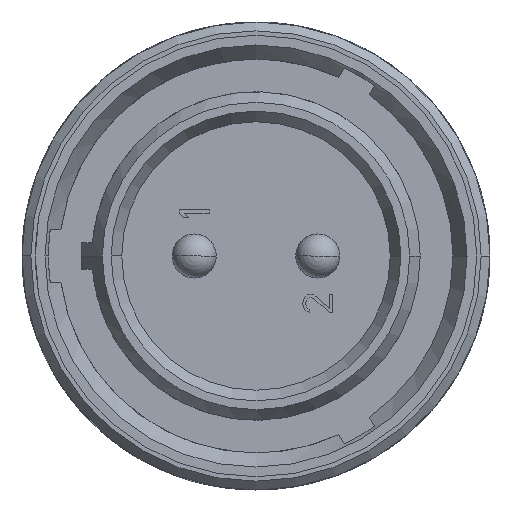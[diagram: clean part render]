
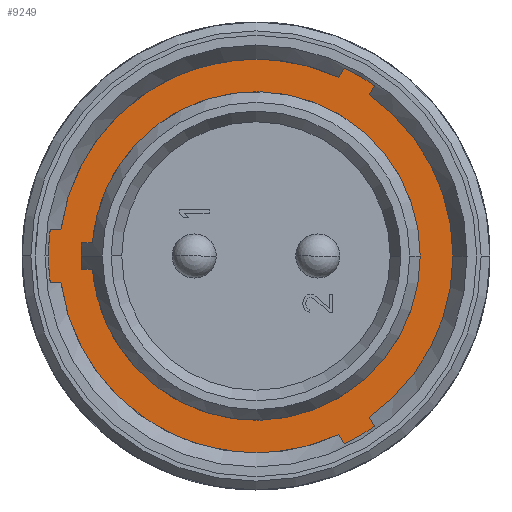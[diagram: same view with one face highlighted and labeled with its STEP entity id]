
A CAD part, left-side view. The second image highlights one B-rep face of the part: STEP entity #9249.
In plain terms, the highlighted planar face has unit normal (-1, 0, 0).
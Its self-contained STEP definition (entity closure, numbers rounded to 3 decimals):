
#3935=DIRECTION('',(0.,0.5,0.866));
#3936=VECTOR('',#3935,0.602);
#3937=CARTESIAN_POINT('',(10.,8.478,-24.173));
#3938=LINE('',#3937,#3936);
#3939=CARTESIAN_POINT('',(10.,13.466,-13.534));
#3940=DIRECTION('',(1.,0.,0.));
#3941=DIRECTION('',(0.,-0.42,-0.907));
#3942=AXIS2_PLACEMENT_3D('',#3939,#3940,#3941);
#3944=DIRECTION('',(0.,1.,0.));
#3945=VECTOR('',#3944,0.605);
#3946=CARTESIAN_POINT('',(10.,24.514,-15.034));
#3947=LINE('',#3946,#3945);
#3948=CARTESIAN_POINT('',(10.,13.466,-13.534));
#3949=DIRECTION('',(1.,0.,0.));
#3950=DIRECTION('',(0.,0.992,-0.128));
#3951=AXIS2_PLACEMENT_3D('',#3948,#3949,#3950);
#3953=DIRECTION('',(0.,-1.,0.));
#3954=VECTOR('',#3953,0.605);
#3955=CARTESIAN_POINT('',(10.,25.12,-12.034));
#3956=LINE('',#3955,#3954);
#3957=CARTESIAN_POINT('',(10.,13.466,-13.534));
#3958=DIRECTION('',(1.,0.,0.));
#3959=DIRECTION('',(0.,0.991,0.135));
#3960=AXIS2_PLACEMENT_3D('',#3957,#3958,#3959);
#3962=DIRECTION('',(0.,-0.5,0.866));
#3963=VECTOR('',#3962,0.602);
#3964=CARTESIAN_POINT('',(10.,8.779,-3.417));
#3965=LINE('',#3964,#3963);
#3966=CARTESIAN_POINT('',(10.,13.466,-13.534));
#3967=DIRECTION('',(1.,0.,0.));
#3968=DIRECTION('',(0.,-0.424,0.905));
#3969=AXIS2_PLACEMENT_3D('',#3966,#3967,#3968);
#3971=DIRECTION('',(0.,0.5,-0.866));
#3972=VECTOR('',#3971,0.602);
#3973=CARTESIAN_POINT('',(10.,6.746,-3.895));
#3974=LINE('',#3973,#3972);
#3975=CARTESIAN_POINT('',(10.,13.466,-13.534));
#3976=DIRECTION('',(1.,0.,0.));
#3977=DIRECTION('',(0.,-0.576,0.818));
#3978=AXIS2_PLACEMENT_3D('',#3975,#3976,#3977);
#3980=CARTESIAN_POINT('',(10.,13.466,-13.534));
#3981=DIRECTION('',(1.,0.,0.));
#3982=DIRECTION('',(0.,-1.,0.));
#3983=AXIS2_PLACEMENT_3D('',#3980,#3981,#3982);
#3985=DIRECTION('',(0.,-0.5,-0.866));
#3986=VECTOR('',#3985,0.602);
#3987=CARTESIAN_POINT('',(10.,7.047,-22.651));
#3988=LINE('',#3987,#3986);
#3989=CARTESIAN_POINT('',(10.,13.466,-13.534));
#3990=DIRECTION('',(1.,0.,0.));
#3991=DIRECTION('',(0.,-0.572,-0.82));
#3992=AXIS2_PLACEMENT_3D('',#3989,#3990,#3991);
#3994=CARTESIAN_POINT('',(10.,13.466,-13.534));
#3995=DIRECTION('',(-1.,0.,0.));
#3996=DIRECTION('',(0.,1.,0.));
#3997=AXIS2_PLACEMENT_3D('',#3994,#3995,#3996);
#3999=CARTESIAN_POINT('',(10.,13.466,-13.534));
#4000=DIRECTION('',(-1.,0.,0.));
#4001=DIRECTION('',(0.,-1.,0.));
#4002=AXIS2_PLACEMENT_3D('',#3999,#4000,#4001);
#5658=CARTESIAN_POINT('',(10.,4.166,-13.534));
#5659=VERTEX_POINT('',#5658);
#5660=CARTESIAN_POINT('',(10.,22.766,-13.534));
#5661=VERTEX_POINT('',#5660);
#5662=CARTESIAN_POINT('',(10.,8.478,-24.173));
#5663=CARTESIAN_POINT('',(10.,8.779,-23.651));
#5664=VERTEX_POINT('',#5662);
#5665=VERTEX_POINT('',#5663);
#5666=CARTESIAN_POINT('',(10.,24.514,-15.034));
#5667=VERTEX_POINT('',#5666);
#5668=CARTESIAN_POINT('',(10.,25.12,-15.034));
#5669=VERTEX_POINT('',#5668);
#5670=CARTESIAN_POINT('',(10.,25.12,-12.034));
#5671=VERTEX_POINT('',#5670);
#5672=CARTESIAN_POINT('',(10.,24.514,-12.034));
#5673=VERTEX_POINT('',#5672);
#5674=CARTESIAN_POINT('',(10.,8.779,-3.417));
#5675=VERTEX_POINT('',#5674);
#5676=CARTESIAN_POINT('',(10.,8.478,-2.895));
#5677=VERTEX_POINT('',#5676);
#5678=CARTESIAN_POINT('',(10.,6.746,-3.895));
#5679=VERTEX_POINT('',#5678);
#5680=CARTESIAN_POINT('',(10.,7.047,-4.417));
#5681=VERTEX_POINT('',#5680);
#5682=CARTESIAN_POINT('',(10.,2.316,-13.534));
#5683=VERTEX_POINT('',#5682);
#5684=CARTESIAN_POINT('',(10.,7.047,-22.651));
#5685=VERTEX_POINT('',#5684);
#5686=CARTESIAN_POINT('',(10.,6.746,-23.173));
#5687=VERTEX_POINT('',#5686);
#9211=CARTESIAN_POINT('',(10.,13.466,-13.534));
#9212=DIRECTION('',(1.,0.,0.));
#9213=DIRECTION('',(0.,-1.,0.));
#9214=AXIS2_PLACEMENT_3D('',#9211,#9212,#9213);
#9215=PLANE('',#9214);
#9217=ORIENTED_EDGE('',*,*,#9216,.T.);
#9219=ORIENTED_EDGE('',*,*,#9218,.T.);
#9221=ORIENTED_EDGE('',*,*,#9220,.T.);
#9223=ORIENTED_EDGE('',*,*,#9222,.T.);
#9225=ORIENTED_EDGE('',*,*,#9224,.T.);
#9226=ORIENTED_EDGE('',*,*,#9200,.T.);
#9228=ORIENTED_EDGE('',*,*,#9227,.T.);
#9230=ORIENTED_EDGE('',*,*,#9229,.T.);
#9232=ORIENTED_EDGE('',*,*,#9231,.T.);
#9234=ORIENTED_EDGE('',*,*,#9233,.T.);
#9236=ORIENTED_EDGE('',*,*,#9235,.T.);
#9238=ORIENTED_EDGE('',*,*,#9237,.T.);
#9240=ORIENTED_EDGE('',*,*,#9239,.T.);
#9241=EDGE_LOOP('',(#9217,#9219,#9221,#9223,#9225,#9226,#9228,#9230,#9232,#9234,
#9236,#9238,#9240));
#9242=FACE_OUTER_BOUND('',#9241,.F.);
#9244=ORIENTED_EDGE('',*,*,#9243,.T.);
#9246=ORIENTED_EDGE('',*,*,#9245,.T.);
#9247=EDGE_LOOP('',(#9244,#9246));
#9248=FACE_BOUND('',#9247,.F.);
#3943=CIRCLE('',#3942,11.15);
#3952=CIRCLE('',#3951,11.75);
#3961=CIRCLE('',#3960,11.15);
#3970=CIRCLE('',#3969,11.75);
#3979=CIRCLE('',#3978,11.15);
#3984=CIRCLE('',#3983,11.15);
#3993=CIRCLE('',#3992,11.75);
#3998=CIRCLE('',#3997,9.3);
#4003=CIRCLE('',#4002,9.3);
#9200=EDGE_CURVE('',#5673,#5675,#3961,.T.);
#9216=EDGE_CURVE('',#5664,#5665,#3938,.T.);
#9218=EDGE_CURVE('',#5665,#5667,#3943,.T.);
#9220=EDGE_CURVE('',#5667,#5669,#3947,.T.);
#9222=EDGE_CURVE('',#5669,#5671,#3952,.T.);
#9224=EDGE_CURVE('',#5671,#5673,#3956,.T.);
#9227=EDGE_CURVE('',#5675,#5677,#3965,.T.);
#9229=EDGE_CURVE('',#5677,#5679,#3970,.T.);
#9231=EDGE_CURVE('',#5679,#5681,#3974,.T.);
#9233=EDGE_CURVE('',#5681,#5683,#3979,.T.);
#9235=EDGE_CURVE('',#5683,#5685,#3984,.T.);
#9237=EDGE_CURVE('',#5685,#5687,#3988,.T.);
#9239=EDGE_CURVE('',#5687,#5664,#3993,.T.);
#9243=EDGE_CURVE('',#5661,#5659,#3998,.T.);
#9245=EDGE_CURVE('',#5659,#5661,#4003,.T.);
#9249=ADVANCED_FACE('',(#9242,#9248),#9215,.F.);
